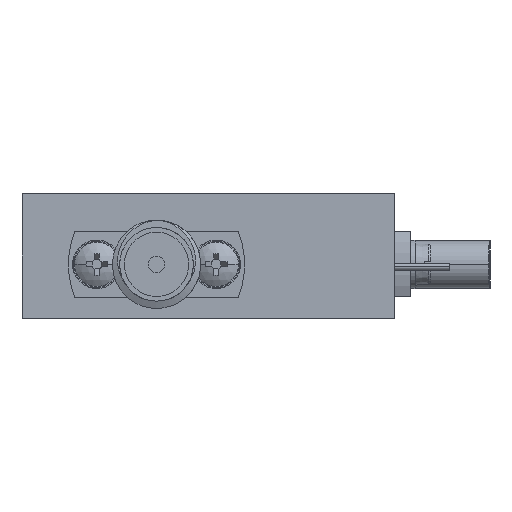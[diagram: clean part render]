
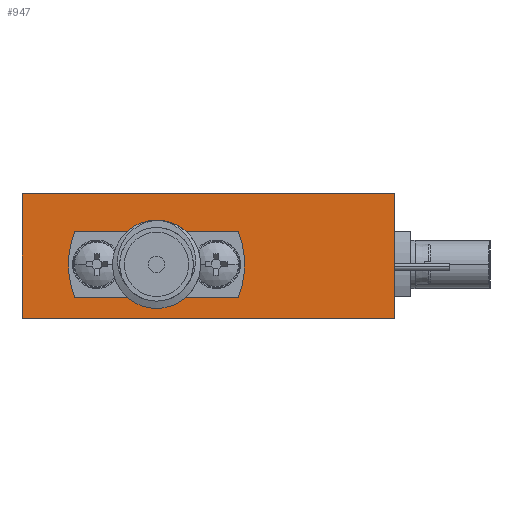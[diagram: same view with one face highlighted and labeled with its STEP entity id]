
A CAD part, left-side view. The second image highlights one B-rep face of the part: STEP entity #947.
In plain terms, the highlighted planar face has unit normal (-1, 0, 0).
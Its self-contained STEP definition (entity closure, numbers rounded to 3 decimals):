
#318 = CARTESIAN_POINT ( 'NONE',  ( 0., -9.287, 3.9 ) ) ;
#426 = ORIENTED_EDGE ( 'NONE', *, *, #39666, .F. ) ;
#947 = ADVANCED_FACE ( 'NONE', ( #53077, #6181 ), #47306, .F. ) ;
#1970 = LINE ( 'NONE', #60105, #18003 ) ;
#2885 = DIRECTION ( 'NONE',  ( -1., 0., 0. ) ) ;
#6181 = FACE_OUTER_BOUND ( 'NONE', #8529, .T. ) ;
#6268 = CARTESIAN_POINT ( 'NONE',  ( 0., -9.687, 3.9 ) ) ;
#6512 = DIRECTION ( 'NONE',  ( 0., 1., 0. ) ) ;
#7225 = CARTESIAN_POINT ( 'NONE',  ( 0., -26.8, 9. ) ) ;
#8529 = EDGE_LOOP ( 'NONE', ( #23010, #57530, #57941, #24998 ) ) ;
#8857 = AXIS2_PLACEMENT_3D ( 'NONE', #31510, #32519, #6512 ) ;
#10712 = CARTESIAN_POINT ( 'NONE',  ( 0., -26.8, 9. ) ) ;
#12422 = CIRCLE ( 'NONE', #61566, 0.4 ) ;
#15900 = DIRECTION ( 'NONE',  ( 0., -1., 0. ) ) ;
#17047 = VECTOR ( 'NONE', #40859, 1000. ) ;
#18003 = VECTOR ( 'NONE', #49947, 1000. ) ;
#20271 = AXIS2_PLACEMENT_3D ( 'NONE', #6268, #58253, #15900 ) ;
#20926 = EDGE_CURVE ( 'NONE', #35206, #44661, #38866, .T. ) ;
#22947 = LINE ( 'NONE', #7225, #65891 ) ;
#23010 = ORIENTED_EDGE ( 'NONE', *, *, #58849, .T. ) ;
#24086 = CARTESIAN_POINT ( 'NONE',  ( 0., -9.687, 3.9 ) ) ;
#24998 = ORIENTED_EDGE ( 'NONE', *, *, #30735, .T. ) ;
#26072 = CARTESIAN_POINT ( 'NONE',  ( 0., 0., 9. ) ) ;
#27505 = VERTEX_POINT ( 'NONE', #26072 ) ;
#30735 = EDGE_CURVE ( 'NONE', #27505, #63402, #1970, .T. ) ;
#31510 = CARTESIAN_POINT ( 'NONE',  ( 0., -26.8, 9. ) ) ;
#32519 = DIRECTION ( 'NONE',  ( 1., 0., 0. ) ) ;
#35206 = VERTEX_POINT ( 'NONE', #59941 ) ;
#35321 = VERTEX_POINT ( 'NONE', #51454 ) ;
#38866 = CIRCLE ( 'NONE', #20271, 0.4 ) ;
#39616 = CARTESIAN_POINT ( 'NONE',  ( 0., -26.8, 0. ) ) ;
#39666 = EDGE_CURVE ( 'NONE', #44661, #35206, #12422, .T. ) ;
#40859 = DIRECTION ( 'NONE',  ( 0., 0., -1. ) ) ;
#41589 = EDGE_CURVE ( 'NONE', #35321, #47537, #52157, .T. ) ;
#44661 = VERTEX_POINT ( 'NONE', #318 ) ;
#47306 = PLANE ( 'NONE',  #8857 ) ;
#47537 = VERTEX_POINT ( 'NONE', #39616 ) ;
#49350 = DIRECTION ( 'NONE',  ( 0., -1., 0. ) ) ;
#49811 = CARTESIAN_POINT ( 'NONE',  ( 0., -26.8, 0. ) ) ;
#49947 = DIRECTION ( 'NONE',  ( 0., 0., -1. ) ) ;
#51454 = CARTESIAN_POINT ( 'NONE',  ( 0., -26.8, 9. ) ) ;
#52157 = LINE ( 'NONE', #10712, #17047 ) ;
#53077 = FACE_BOUND ( 'NONE', #59746, .T. ) ;
#57530 = ORIENTED_EDGE ( 'NONE', *, *, #41589, .F. ) ;
#57941 = ORIENTED_EDGE ( 'NONE', *, *, #65185, .F. ) ;
#58253 = DIRECTION ( 'NONE',  ( -1., 0., 0. ) ) ;
#58849 = EDGE_CURVE ( 'NONE', #63402, #47537, #65476, .T. ) ;
#59746 = EDGE_LOOP ( 'NONE', ( #61653, #426 ) ) ;
#59941 = CARTESIAN_POINT ( 'NONE',  ( 0., -10.087, 3.9 ) ) ;
#60105 = CARTESIAN_POINT ( 'NONE',  ( 0., 0., 9. ) ) ;
#61356 = DIRECTION ( 'NONE',  ( 0., -1., 0. ) ) ;
#61566 = AXIS2_PLACEMENT_3D ( 'NONE', #24086, #2885, #61356 ) ;
#61653 = ORIENTED_EDGE ( 'NONE', *, *, #20926, .F. ) ;
#62488 = VECTOR ( 'NONE', #66166, 1000. ) ;
#63402 = VERTEX_POINT ( 'NONE', #65706 ) ;
#65185 = EDGE_CURVE ( 'NONE', #27505, #35321, #22947, .T. ) ;
#65476 = LINE ( 'NONE', #49811, #62488 ) ;
#65706 = CARTESIAN_POINT ( 'NONE',  ( 0., 0., 0. ) ) ;
#65891 = VECTOR ( 'NONE', #49350, 1000. ) ;
#66166 = DIRECTION ( 'NONE',  ( 0., -1., 0. ) ) ;
